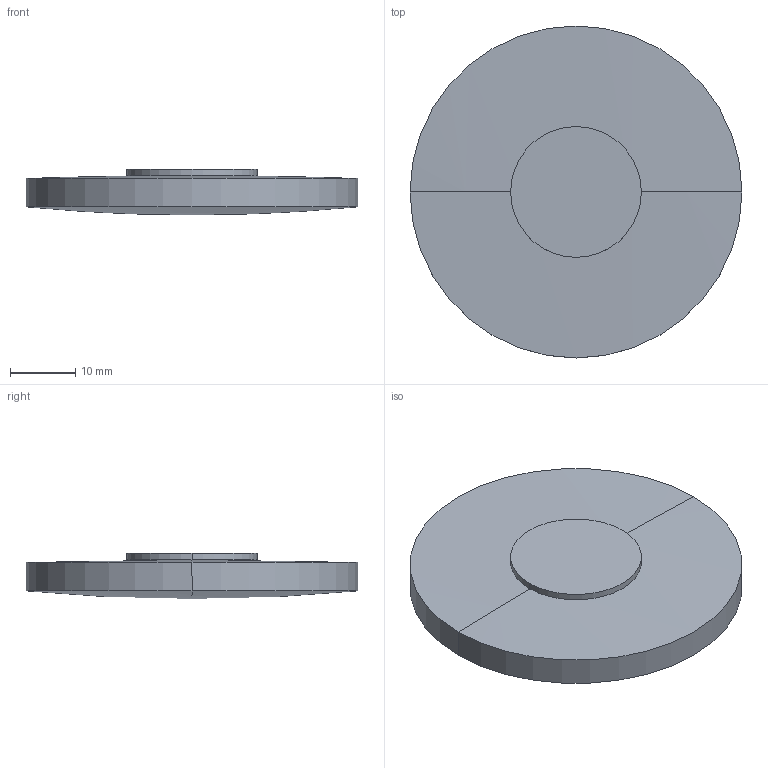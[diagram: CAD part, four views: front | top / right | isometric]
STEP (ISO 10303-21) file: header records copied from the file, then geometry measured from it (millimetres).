
FILE_DESCRIPTION(('STEP AP214'),'1');
FILE_NAME('LLR-51475.STEP','2020-03-09T17:42:04',(' '),(' '),'Spatial InterOp 3D',' ',' ');
FILE_SCHEMA(('AUTOMOTIVE_DESIGN { 1 0 10303 214 1 1 1 1 }'));
Length unit declared in the file: millimetre
Products named in the file (1): 1
Bounding box: 50.8 x 50.8 x 7 mm (x, y, z)
Volume: 10809.2 mm3; surface area: 5445.1 mm2
Topology: 2 solids, 2 shells, 10 faces, 20 edges, 10 vertices
Faces by surface type: sphere 4, cylinder 4, plane 2
Entity records: 255 total; most frequent: DIRECTION 52, CARTESIAN_POINT 38, ORIENTED_EDGE 32, AXIS2_PLACEMENT_3D 24, EDGE_CURVE 16, CIRCLE 12, ADVANCED_FACE 10, FACE_OUTER_BOUND 10
